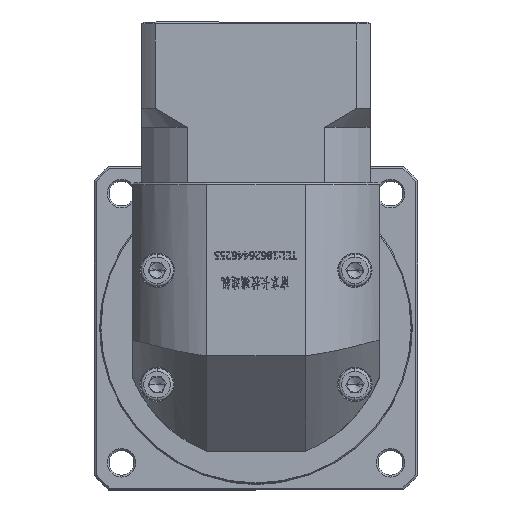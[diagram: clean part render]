
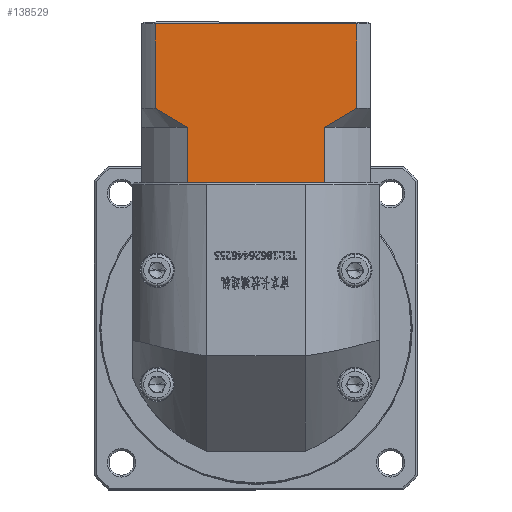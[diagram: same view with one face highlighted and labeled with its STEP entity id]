
A CAD part, top view. The second image highlights one B-rep face of the part: STEP entity #138529.
In plain terms, the highlighted planar face has unit normal (0, 0, 1).
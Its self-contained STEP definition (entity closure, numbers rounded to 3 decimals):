
#4007 = CARTESIAN_POINT ( 'NONE',  ( -92.034, 71.017, 52.58 ) ) ;
#5920 = B_SPLINE_CURVE_WITH_KNOTS ( 'NONE', 3,
 ( #177460, #69584, #161946, #85094, #192949, #100623 ),
 .UNSPECIFIED., .F., .F.,
 ( 4, 2, 4 ),
 ( 0.052, 0.057, 0.062 ),
 .UNSPECIFIED. ) ;
#7867 = CARTESIAN_POINT ( 'NONE',  ( -48.911, 89.616, 52.58 ) ) ;
#8260 = DIRECTION ( 'NONE',  ( 1., 0., 0. ) ) ;
#11863 = DIRECTION ( 'NONE',  ( 0., -1., 0. ) ) ;
#13717 = VERTEX_POINT ( 'NONE', #189369 ) ;
#17271 = DIRECTION ( 'NONE',  ( 0., 1., 0. ) ) ;
#19275 = CARTESIAN_POINT ( 'NONE',  ( -91.043, 71.017, 52.58 ) ) ;
#19296 = LINE ( 'NONE', #85865, #55466 ) ;
#19315 = LINE ( 'NONE', #24014, #96610 ) ;
#19670 = LINE ( 'NONE', #132372, #24506 ) ;
#24014 = CARTESIAN_POINT ( 'NONE',  ( -92.034, 85.517, 52.58 ) ) ;
#24046 = ORIENTED_EDGE ( 'NONE', *, *, #66528, .F. ) ;
#24506 = VECTOR ( 'NONE', #147879, 1000. ) ;
#29060 = LINE ( 'NONE', #94273, #70154 ) ;
#29458 = LINE ( 'NONE', #141936, #183922 ) ;
#30097 = EDGE_CURVE ( 'NONE', #86394, #153920, #29060, .T. ) ;
#30996 = ORIENTED_EDGE ( 'NONE', *, *, #98457, .T. ) ;
#35833 = CARTESIAN_POINT ( 'NONE',  ( -100.464, 90.517, 52.58 ) ) ;
#36729 = CARTESIAN_POINT ( 'NONE',  ( -104.006, 113.217, 52.58 ) ) ;
#37869 = CARTESIAN_POINT ( 'NONE',  ( -100.464, 112.717, 52.58 ) ) ;
#38860 = DIRECTION ( 'NONE',  ( 1., 0., 0. ) ) ;
#39516 = DIRECTION ( 'NONE',  ( 0., 1., 0. ) ) ;
#39953 = LINE ( 'NONE', #193078, #122063 ) ;
#52216 = DIRECTION ( 'NONE',  ( 0., 1., 0. ) ) ;
#53778 = CARTESIAN_POINT ( 'NONE',  ( -54.522, 86.267, 52.58 ) ) ;
#55466 = VECTOR ( 'NONE', #193701, 1000. ) ;
#60211 = EDGE_CURVE ( 'NONE', #144270, #81799, #19296, .T. ) ;
#62037 = EDGE_CURVE ( 'NONE', #86394, #74221, #5920, .T. ) ;
#66528 = EDGE_CURVE ( 'NONE', #168439, #74221, #19315, .T. ) ;
#68959 = CARTESIAN_POINT ( 'NONE',  ( -47.549, 112.717, 52.58 ) ) ;
#69199 = VERTEX_POINT ( 'NONE', #181655 ) ;
#69584 = CARTESIAN_POINT ( 'NONE',  ( -99.104, 89.617, 52.58 ) ) ;
#70154 = VECTOR ( 'NONE', #17271, 1000. ) ;
#72502 = AXIS2_PLACEMENT_3D ( 'NONE', #36729, #144677, #52216 ) ;
#74221 = VERTEX_POINT ( 'NONE', #112032 ) ;
#75362 = VECTOR ( 'NONE', #11863, 1000. ) ;
#81799 = VERTEX_POINT ( 'NONE', #157264 ) ;
#83622 = FACE_OUTER_BOUND ( 'NONE', #118222, .T. ) ;
#85094 = CARTESIAN_POINT ( 'NONE',  ( -94.917, 87.068, 52.58 ) ) ;
#85442 = CARTESIAN_POINT ( 'NONE',  ( -104.006, 71.017, 52.58 ) ) ;
#85865 = CARTESIAN_POINT ( 'NONE',  ( -47.549, 85.517, 52.58 ) ) ;
#86013 = VERTEX_POINT ( 'NONE', #116007 ) ;
#86394 = VERTEX_POINT ( 'NONE', #35833 ) ;
#88864 = CARTESIAN_POINT ( 'NONE',  ( -55.978, 85.517, 52.58 ) ) ;
#94273 = CARTESIAN_POINT ( 'NONE',  ( -100.464, 85.517, 52.58 ) ) ;
#96042 = VECTOR ( 'NONE', #38860, 1000. ) ;
#96610 = VECTOR ( 'NONE', #39516, 1000. ) ;
#97454 = PLANE ( 'NONE',  #72502 ) ;
#98457 = EDGE_CURVE ( 'NONE', #168439, #194672, #19670, .T. ) ;
#100375 = CARTESIAN_POINT ( 'NONE',  ( -50.291, 88.742, 52.58 ) ) ;
#100623 = CARTESIAN_POINT ( 'NONE',  ( -92.034, 85.517, 52.58 ) ) ;
#102560 = EDGE_CURVE ( 'NONE', #144270, #153920, #29458, .T. ) ;
#106316 = EDGE_CURVE ( 'NONE', #69199, #86013, #141915, .T. ) ;
#112032 = CARTESIAN_POINT ( 'NONE',  ( -92.034, 85.517, 52.58 ) ) ;
#115894 = CARTESIAN_POINT ( 'NONE',  ( -47.549, 90.517, 52.58 ) ) ;
#116007 = CARTESIAN_POINT ( 'NONE',  ( -55.978, 71.017, 52.58 ) ) ;
#116404 = LINE ( 'NONE', #88864, #75362 ) ;
#117290 = EDGE_CURVE ( 'NONE', #194672, #69199, #39953, .T. ) ;
#118222 = EDGE_LOOP ( 'NONE', ( #128136, #122115, #139558, #184818, #24046, #30996, #181895, #190812, #159030, #155840 ) ) ;
#119586 = EDGE_CURVE ( 'NONE', #13717, #81799, #166574, .T. ) ;
#122063 = VECTOR ( 'NONE', #8260, 1000. ) ;
#122115 = ORIENTED_EDGE ( 'NONE', *, *, #102560, .T. ) ;
#128136 = ORIENTED_EDGE ( 'NONE', *, *, #60211, .F. ) ;
#132372 = CARTESIAN_POINT ( 'NONE',  ( -104.006, 71.017, 52.58 ) ) ;
#138529 = ADVANCED_FACE ( 'NONE', ( #83622 ), #97454, .F. ) ;
#139558 = ORIENTED_EDGE ( 'NONE', *, *, #30097, .F. ) ;
#141915 = LINE ( 'NONE', #85442, #96042 ) ;
#141936 = CARTESIAN_POINT ( 'NONE',  ( -104.006, 112.717, 52.58 ) ) ;
#144270 = VERTEX_POINT ( 'NONE', #68959 ) ;
#144677 = DIRECTION ( 'NONE',  ( 0., 0., -1. ) ) ;
#147879 = DIRECTION ( 'NONE',  ( 1., 0., 0. ) ) ;
#153920 = VERTEX_POINT ( 'NONE', #37869 ) ;
#155840 = ORIENTED_EDGE ( 'NONE', *, *, #119586, .T. ) ;
#156210 = EDGE_CURVE ( 'NONE', #13717, #86013, #116404, .T. ) ;
#157264 = CARTESIAN_POINT ( 'NONE',  ( -47.549, 90.517, 52.58 ) ) ;
#157371 = DIRECTION ( 'NONE',  ( -1., 0., 0. ) ) ;
#159030 = ORIENTED_EDGE ( 'NONE', *, *, #156210, .F. ) ;
#161696 = CARTESIAN_POINT ( 'NONE',  ( -55.978, 85.517, 52.58 ) ) ;
#161946 = CARTESIAN_POINT ( 'NONE',  ( -97.725, 88.744, 52.58 ) ) ;
#166574 = B_SPLINE_CURVE_WITH_KNOTS ( 'NONE', 3,
 ( #161696, #53778, #192697, #100375, #7867, #115894 ),
 .UNSPECIFIED., .F., .F.,
 ( 4, 2, 4 ),
 ( 0.1, 0.104, 0.109 ),
 .UNSPECIFIED. ) ;
#168439 = VERTEX_POINT ( 'NONE', #4007 ) ;
#177460 = CARTESIAN_POINT ( 'NONE',  ( -100.464, 90.517, 52.58 ) ) ;
#181655 = CARTESIAN_POINT ( 'NONE',  ( -56.969, 71.017, 52.58 ) ) ;
#181895 = ORIENTED_EDGE ( 'NONE', *, *, #117290, .T. ) ;
#183922 = VECTOR ( 'NONE', #157371, 1000. ) ;
#184818 = ORIENTED_EDGE ( 'NONE', *, *, #62037, .T. ) ;
#189369 = CARTESIAN_POINT ( 'NONE',  ( -55.978, 85.517, 52.58 ) ) ;
#190812 = ORIENTED_EDGE ( 'NONE', *, *, #106316, .T. ) ;
#192697 = CARTESIAN_POINT ( 'NONE',  ( -53.096, 87.067, 52.58 ) ) ;
#192949 = CARTESIAN_POINT ( 'NONE',  ( -93.486, 86.265, 52.58 ) ) ;
#193078 = CARTESIAN_POINT ( 'NONE',  ( -104.006, 71.017, 52.58 ) ) ;
#193701 = DIRECTION ( 'NONE',  ( 0., -1., 0. ) ) ;
#194672 = VERTEX_POINT ( 'NONE', #19275 ) ;
